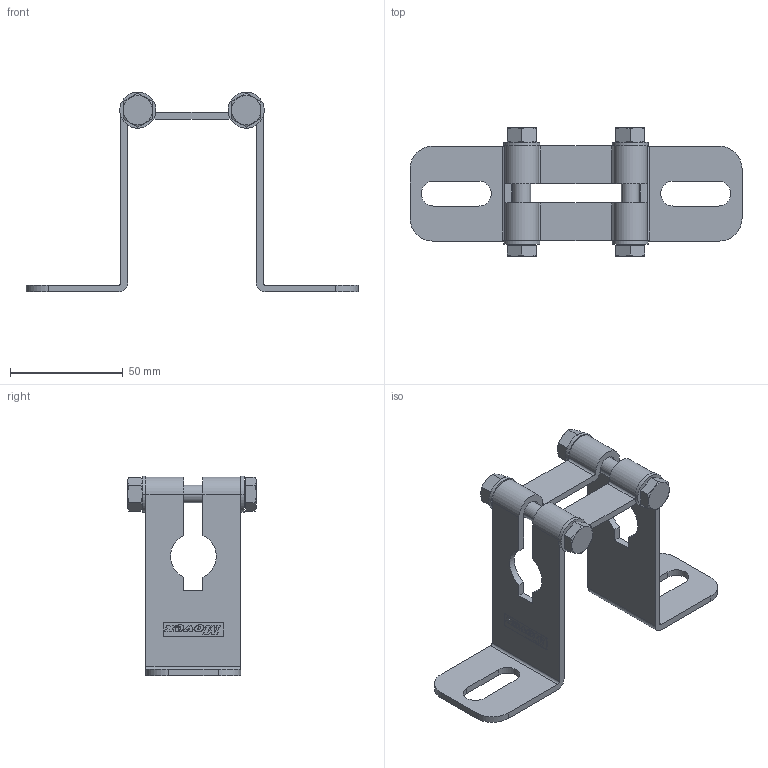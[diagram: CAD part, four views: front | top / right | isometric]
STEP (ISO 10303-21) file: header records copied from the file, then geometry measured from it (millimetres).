
FILE_DESCRIPTION(('CATIA V5 STEP Exchange'),'2;1');
FILE_NAME('X:\CODICI MOVEX\3D per clienti\Sergio Palazzo\2015\30-10-2015\P42702_01.stp','2015-10-30T10:10:33+00:00',('none'),('none'),'Version 5-6 Release 2012','CATIA V5 STEP AP203','none');
FILE_SCHEMA(('CONFIG_CONTROL_DESIGN'));
Length unit declared in the file: millimetre
Products named in the file (1): P42702_01
Assembly tree (9 placements, depth 2):
  P42702_01
    #57
    #30700  x2
    #31299  x2
    #31862  x4
Bounding box: 147 x 57 x 88.5 mm (x, y, z)
Volume: 41616.8 mm3; surface area: 32109.6 mm2
Topology: 9 solids, 9 shells, 1044 faces, 3016 edges, 2008 vertices
Faces by surface type: plane 956, cylinder 68, cone 16, torus 4
Entity records: 32047 total; most frequent: CARTESIAN_POINT 5958, ORIENTED_EDGE 5800, DIRECTION 4704, EDGE_CURVE 2900, VECTOR 2764, LINE 2764, VERTEX_POINT 1932, AXIS2_PLACEMENT_3D 1026
